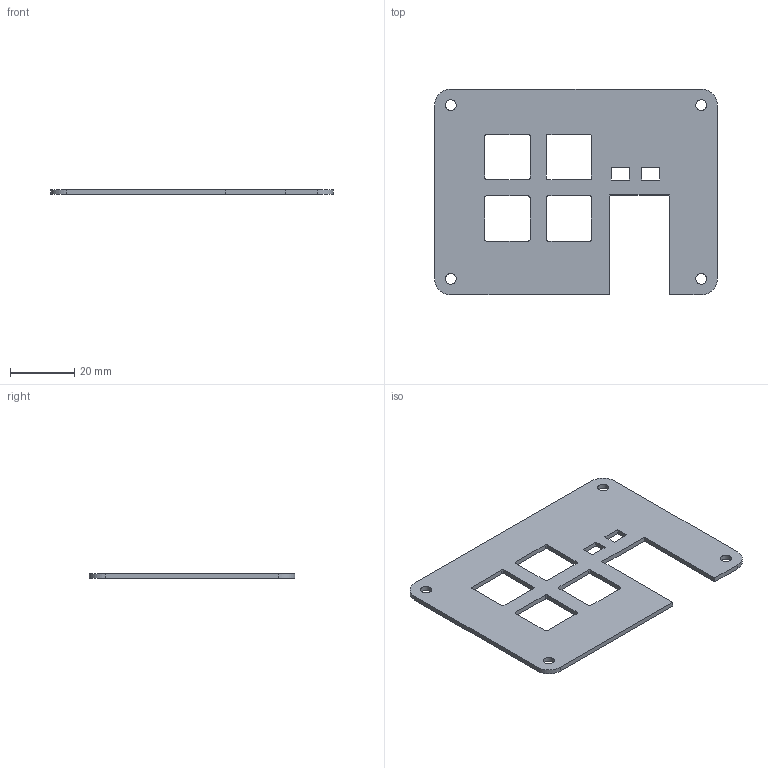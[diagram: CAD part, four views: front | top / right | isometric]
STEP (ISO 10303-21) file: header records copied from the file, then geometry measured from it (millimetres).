
FILE_DESCRIPTION(/* description */ (''),/* implementation_level */ '2;1');
FILE_NAME(/* name */ 'Hack Pad UP.step',/* time_stamp */ '2026-01-10T21:41:43-06:00',/* author */ (''),/* organization */ (''),/* preprocessor_version */ 'ST-DEVELOPER v20.1',/* originating_system */ 'Autodesk Translation Framework v14.21.0.0',/* authorisation */ '');
FILE_SCHEMA (('AUTOMOTIVE_DESIGN { 1 0 10303 214 3 1 1 }'));
Length unit declared in the file: millimetre
Products named in the file (2): 2026-01-10-15-42-13-528; 2026-01-10-16-17-28-955
Assembly tree (1 placements, depth 2):
  2026-01-10-15-42-13-528
    2026-01-10-16-17-28-955
Bounding box: 87.67 x 63.86 x 1.5 mm (x, y, z)
Volume: 6205.6 mm3; surface area: 9279.9 mm2
Topology: 1 solids, 1 shells, 106 faces, 288 edges, 188 vertices
Faces by surface type: plane 82, cylinder 24
Full cylindrical faces by diameter (mm): 3.4 x4
Entity records: 3401 total; most frequent: CARTESIAN_POINT 585, ORIENTED_EDGE 576, DIRECTION 554, EDGE_CURVE 288, LINE 240, VECTOR 240, VERTEX_POINT 188, AXIS2_PLACEMENT_3D 157
